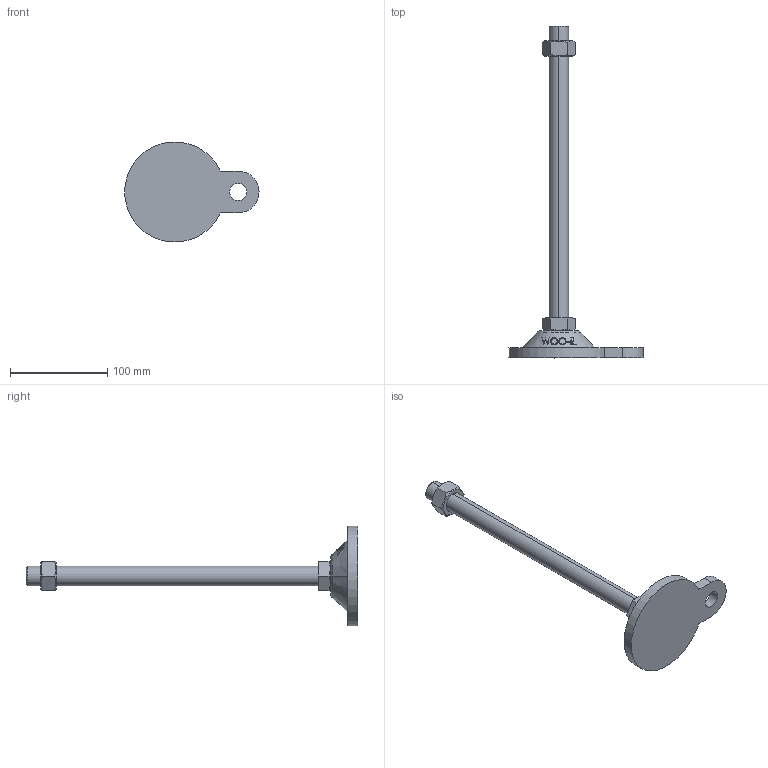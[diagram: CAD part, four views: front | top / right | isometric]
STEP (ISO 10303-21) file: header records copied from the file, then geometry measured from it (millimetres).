
FILE_DESCRIPTION (( 'STEP AP214' ), '1' );
FILE_NAME ('ARB103-M20-300.step', '2021-03-25T00:41:46', ( '' ), ( '' ), 'SwSTEP 2.0', 'SolidWorks 2019', '' );
FILE_SCHEMA (( 'AUTOMOTIVE_DESIGN' ));
Length unit declared in the file: millimetre
Products named in the file (2): ARB103-M20-300
Bounding box: 137.8 x 341 x 102.64 mm (x, y, z)
Volume: 257972.8 mm3; surface area: 50000.2 mm2
Topology: 3 solids, 3 shells, 97 faces, 229 edges, 148 vertices
Faces by surface type: plane 49, cone 22, bspline 16, cylinder 8, torus 2
Entity records: 4424 total; most frequent: CARTESIAN_POINT 2262, ORIENTED_EDGE 458, DIRECTION 375, EDGE_CURVE 229, VERTEX_POINT 148, AXIS2_PLACEMENT_3D 143, EDGE_LOOP 111, ADVANCED_FACE 97
